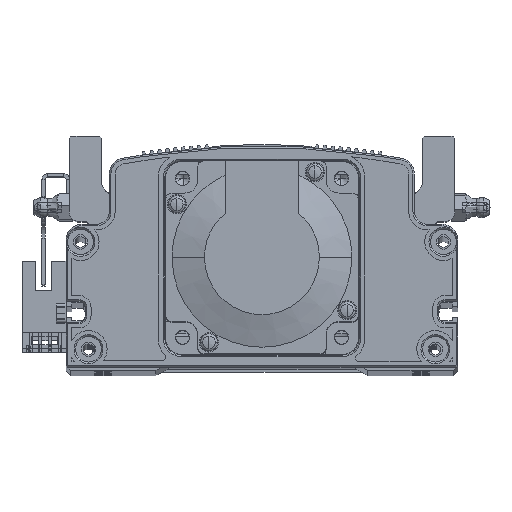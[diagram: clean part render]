
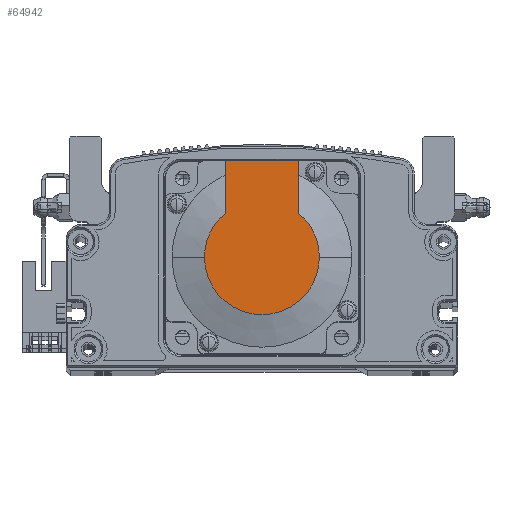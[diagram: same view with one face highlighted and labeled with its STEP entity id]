
A CAD part, top view. The second image highlights one B-rep face of the part: STEP entity #64942.
In plain terms, the highlighted planar face has unit normal (0, 0, 1) as drawn and (-1, 0, 0) by its records, which use the part's own axes.
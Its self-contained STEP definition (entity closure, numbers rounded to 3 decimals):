
#1398 = CARTESIAN_POINT ( 'NONE',  ( -118.5, 0., 0. ) ) ;
#2802 = ORIENTED_EDGE ( 'NONE', *, *, #45601, .T. ) ;
#4023 = EDGE_CURVE ( 'NONE', #86812, #49253, #88626, .T. ) ;
#4722 = ORIENTED_EDGE ( 'NONE', *, *, #77482, .T. ) ;
#7999 = VERTEX_POINT ( 'NONE', #10842 ) ;
#8655 = FACE_OUTER_BOUND ( 'NONE', #29762, .T. ) ;
#8888 = DIRECTION ( 'NONE',  ( 0., 0., -1. ) ) ;
#9146 = LINE ( 'NONE', #87563, #44055 ) ;
#10606 = AXIS2_PLACEMENT_3D ( 'NONE', #34242, #62566, #75371 ) ;
#10842 = CARTESIAN_POINT ( 'NONE',  ( -118.5, 13.735, -11.45 ) ) ;
#14576 = AXIS2_PLACEMENT_3D ( 'NONE', #79082, #30623, #50758 ) ;
#15043 = CARTESIAN_POINT ( 'NONE',  ( -118.5, 0., 17.881 ) ) ;
#18282 = CIRCLE ( 'NONE', #88910, 17.881 ) ;
#18661 = VECTOR ( 'NONE', #89505, 1000. ) ;
#23831 = EDGE_CURVE ( 'NONE', #75291, #65081, #41711, .T. ) ;
#29762 = EDGE_LOOP ( 'NONE', ( #85705, #2802, #42948, #4722, #70541, #78739 ) ) ;
#29900 = DIRECTION ( 'NONE',  ( -1., 0., 0. ) ) ;
#30617 = AXIS2_PLACEMENT_3D ( 'NONE', #1398, #49785, #49196 ) ;
#30623 = DIRECTION ( 'NONE',  ( -1., 0., 0. ) ) ;
#33142 = CARTESIAN_POINT ( 'NONE',  ( -118.5, -8.941, -11.45 ) ) ;
#34242 = CARTESIAN_POINT ( 'NONE',  ( -118.5, -8.941, 0. ) ) ;
#35291 = VERTEX_POINT ( 'NONE', #67279 ) ;
#41711 = CIRCLE ( 'NONE', #14576, 17.881 ) ;
#42851 = EDGE_CURVE ( 'NONE', #35291, #7999, #65496, .T. ) ;
#42948 = ORIENTED_EDGE ( 'NONE', *, *, #23831, .T. ) ;
#44055 = VECTOR ( 'NONE', #81469, 1000. ) ;
#45601 = EDGE_CURVE ( 'NONE', #7999, #75291, #18282, .T. ) ;
#49196 = DIRECTION ( 'NONE',  ( 0., 0., -1. ) ) ;
#49253 = VERTEX_POINT ( 'NONE', #71883 ) ;
#49785 = DIRECTION ( 'NONE',  ( -1., 0., 0. ) ) ;
#50199 = CIRCLE ( 'NONE', #30617, 17.881 ) ;
#50758 = DIRECTION ( 'NONE',  ( 0., 0., -1. ) ) ;
#56152 = CARTESIAN_POINT ( 'NONE',  ( -118.5, 0., 11.45 ) ) ;
#58586 = DIRECTION ( 'NONE',  ( 0., -1., 0. ) ) ;
#60287 = VECTOR ( 'NONE', #58586, 1000. ) ;
#61663 = PLANE ( 'NONE',  #10606 ) ;
#62566 = DIRECTION ( 'NONE',  ( -1., 0., 0. ) ) ;
#64942 = ADVANCED_FACE ( 'NONE', ( #8655 ), #61663, .T. ) ;
#65081 = VERTEX_POINT ( 'NONE', #15043 ) ;
#65496 = LINE ( 'NONE', #33142, #18661 ) ;
#66464 = CARTESIAN_POINT ( 'NONE',  ( -118.5, 30., 11.45 ) ) ;
#67279 = CARTESIAN_POINT ( 'NONE',  ( -118.5, 30., -11.45 ) ) ;
#70541 = ORIENTED_EDGE ( 'NONE', *, *, #4023, .F. ) ;
#71660 = CARTESIAN_POINT ( 'NONE',  ( -118.5, 0., 0. ) ) ;
#71883 = CARTESIAN_POINT ( 'NONE',  ( -118.5, 13.735, 11.45 ) ) ;
#73330 = EDGE_CURVE ( 'NONE', #35291, #86812, #9146, .T. ) ;
#75291 = VERTEX_POINT ( 'NONE', #88283 ) ;
#75371 = DIRECTION ( 'NONE',  ( 0., 0., 1. ) ) ;
#77482 = EDGE_CURVE ( 'NONE', #65081, #49253, #50199, .T. ) ;
#78739 = ORIENTED_EDGE ( 'NONE', *, *, #73330, .F. ) ;
#79082 = CARTESIAN_POINT ( 'NONE',  ( -118.5, 0., 0. ) ) ;
#81469 = DIRECTION ( 'NONE',  ( 0., 0., 1. ) ) ;
#85705 = ORIENTED_EDGE ( 'NONE', *, *, #42851, .T. ) ;
#86812 = VERTEX_POINT ( 'NONE', #66464 ) ;
#87563 = CARTESIAN_POINT ( 'NONE',  ( -118.5, 30., 25. ) ) ;
#88283 = CARTESIAN_POINT ( 'NONE',  ( -118.5, 0., -17.881 ) ) ;
#88626 = LINE ( 'NONE', #56152, #60287 ) ;
#88910 = AXIS2_PLACEMENT_3D ( 'NONE', #71660, #29900, #8888 ) ;
#89505 = DIRECTION ( 'NONE',  ( 0., -1., 0. ) ) ;
